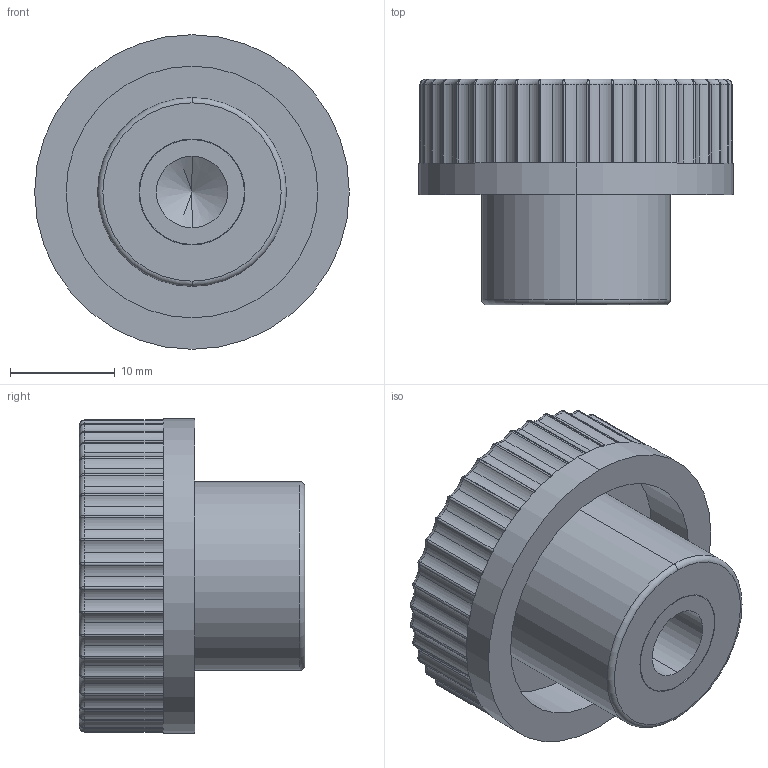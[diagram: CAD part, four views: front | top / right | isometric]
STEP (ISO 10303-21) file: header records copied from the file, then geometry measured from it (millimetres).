
FILE_DESCRIPTION (( 'STEP AP203' ), '1' );
FILE_NAME ('AP-2031-30-M8.STEP', '2015-11-23T10:52:24', ( '' ), ( '' ), 'SwSTEP 2.0', 'SolidWorks 2014', '' );
FILE_SCHEMA (( 'CONFIG_CONTROL_DESIGN' ));
Length unit declared in the file: millimetre
Products named in the file (1): AP-2031-30-M8
Bounding box: 30 x 21.5 x 30 mm (x, y, z)
Volume: 8020.3 mm3; surface area: 5052 mm2
Topology: 2 solids, 2 shells, 256 faces, 650 edges, 363 vertices
Faces by surface type: cylinder 148, torus 55, bspline 40, plane 9, cone 2, sphere 2
Entity records: 8513 total; most frequent: CARTESIAN_POINT 2554, DIRECTION 1336, ORIENTED_EDGE 1216, EDGE_CURVE 608, AXIS2_PLACEMENT_3D 593, CIRCLE 376, VERTEX_POINT 363, EDGE_LOOP 265
